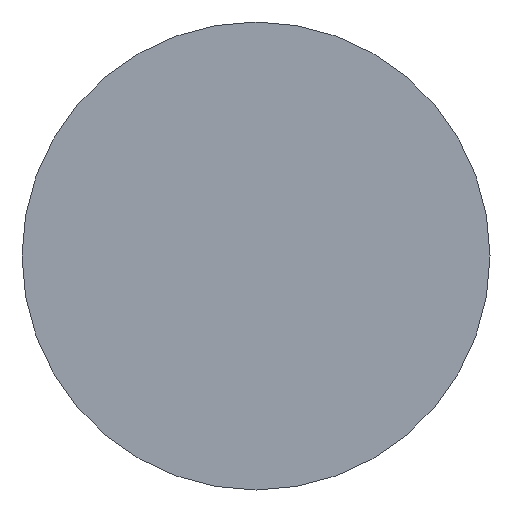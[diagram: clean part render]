
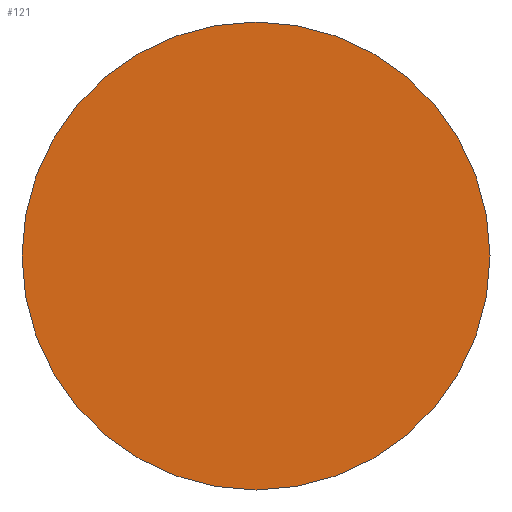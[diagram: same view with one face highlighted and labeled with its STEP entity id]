
A CAD part, front view. The second image highlights one B-rep face of the part: STEP entity #121.
In plain terms, the highlighted planar face has unit normal (0, -1, 0).
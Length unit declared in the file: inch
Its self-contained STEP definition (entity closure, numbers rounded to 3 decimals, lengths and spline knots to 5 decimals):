
#7 = PLANE ( 'NONE',  #222 ) ;
#22 = CARTESIAN_POINT ( 'NONE',  ( 0., 0., 0.1875 ) ) ;
#23 = DIRECTION ( 'NONE',  ( 0., 1., 0. ) ) ;
#33 = ORIENTED_EDGE ( 'NONE', *, *, #44, .F. ) ;
#36 = CARTESIAN_POINT ( 'NONE',  ( 0., 0., 0. ) ) ;
#44 = EDGE_CURVE ( 'NONE', #104, #194, #195, .T. ) ;
#46 = CARTESIAN_POINT ( 'NONE',  ( 0., 0., -0.1875 ) ) ;
#52 = ORIENTED_EDGE ( 'NONE', *, *, #68, .F. ) ;
#59 = DIRECTION ( 'NONE',  ( 0., 1., 0. ) ) ;
#61 = CARTESIAN_POINT ( 'NONE',  ( 0., 0., 0. ) ) ;
#68 = EDGE_CURVE ( 'NONE', #194, #104, #209, .T. ) ;
#101 = DIRECTION ( 'NONE',  ( 0., 0., 1. ) ) ;
#104 = VERTEX_POINT ( 'NONE', #22 ) ;
#121 = ADVANCED_FACE ( 'NONE', ( #220 ), #7, .F. ) ;
#134 = DIRECTION ( 'NONE',  ( 0., 0., 1. ) ) ;
#143 = DIRECTION ( 'NONE',  ( 0., 0., 1. ) ) ;
#153 = AXIS2_PLACEMENT_3D ( 'NONE', #36, #59, #101 ) ;
#164 = CARTESIAN_POINT ( 'NONE',  ( 0., 0., 0. ) ) ;
#189 = AXIS2_PLACEMENT_3D ( 'NONE', #61, #23, #143 ) ;
#194 = VERTEX_POINT ( 'NONE', #46 ) ;
#195 = CIRCLE ( 'NONE', #153, 0.1875 ) ;
#198 = DIRECTION ( 'NONE',  ( 0., 1., 0. ) ) ;
#209 = CIRCLE ( 'NONE', #189, 0.1875 ) ;
#211 = EDGE_LOOP ( 'NONE', ( #52, #33 ) ) ;
#220 = FACE_OUTER_BOUND ( 'NONE', #211, .T. ) ;
#222 = AXIS2_PLACEMENT_3D ( 'NONE', #164, #198, #134 ) ;
